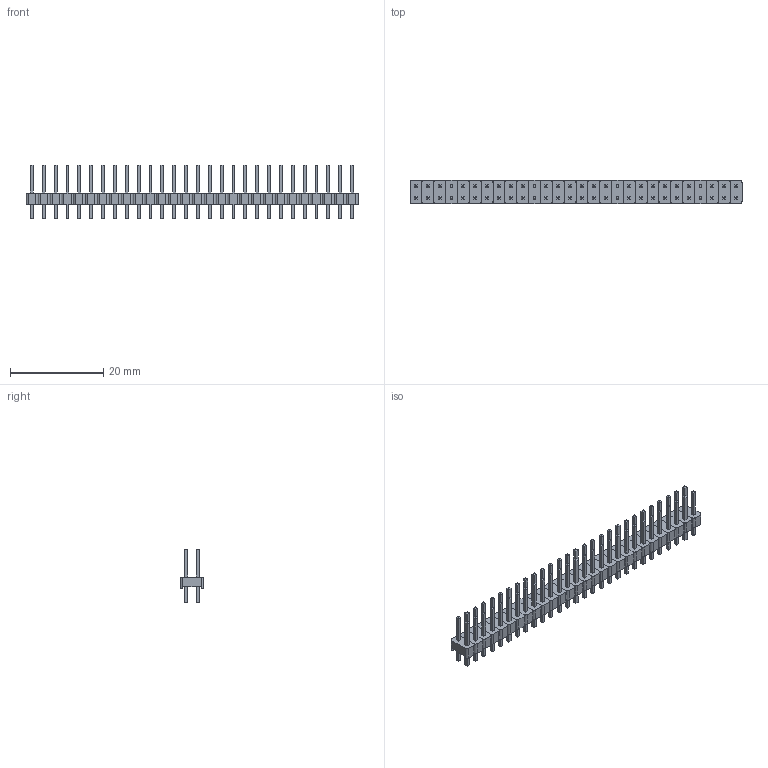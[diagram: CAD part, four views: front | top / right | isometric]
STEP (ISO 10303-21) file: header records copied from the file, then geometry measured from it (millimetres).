
FILE_DESCRIPTION(('FreeCAD Model'),'2;1');
FILE_NAME('Open CASCADE Shape Model','2022-04-06T16:02:45',( 'Engenharia Metaltex'),('Metaltex'), 'Open CASCADE STEP processor 7.5','FreeCAD','Unknown');
FILE_SCHEMA(('AUTOMOTIVE_DESIGN { 1 0 10303 214 1 1 1 1 }'));
Length unit declared in the file: millimetre
Products named in the file (113): BPDC; 28; Base027; Pino055; Pino056; 1; Base; Pino1; Pino2; 2; Base001; Pino003; Pino004; 3; Base002; Pino006; Pino005; 4; Base003; Pino008; Pino007; 5; Base004; Pino009; Pino010; 6; Base005; Pino012; Pino011; 7; Base006; Pino013; Pino014; 8; Base007; Pino015; Pino016; 9; Base008; Pino017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
Assembly tree (112 placements, depth 3):
  BPDC
    28
      Base027
      Pino055
      Pino056
    1
      Base
      Pino1
      Pino2
    2
      Base001
      Pino003
      Pino004
    3
      Base002
      Pino006
      Pino005
    4
      Base003
      Pino008
      Pino007
    5
      Base004
      Pino009
      Pino010
    6
      Base005
      Pino012
      Pino011
    7
      Base006
      Pino013
      Pino014
    8
      Base007
      Pino015
      Pino016
    9
      Base008
      Pino017
      Pino018
    10
      Base009
      Pino019
      Pino020
    11
      Base010
      Pino021
      Pino022
    12
      Base011
      Pino023
      Pino024
    13
      Base012
      Pino025
      Pino026
    14
      Base013
      Pino027
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Bounding box: 71.12 x 5.08 x 11.54 mm (x, y, z)
Volume: 977.8 mm3; surface area: 3601.7 mm2
Topology: 84 solids, 84 shells, 1400 faces, 3248 edges, 2016 vertices
Faces by surface type: plane 1288, cylinder 112
Entity records: 84019 total; most frequent: CARTESIAN_POINT 13945, DIRECTION 12882, LINE 9296, VECTOR 9296, ORIENTED_EDGE 6496, PCURVE 6496, DEFINITIONAL_REPRESENTATION 6496, EDGE_CURVE 3248
